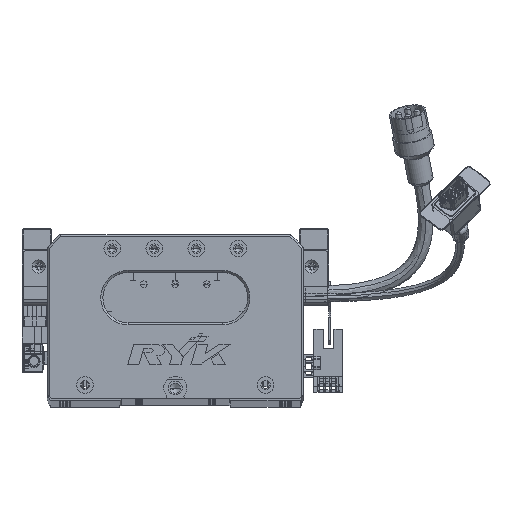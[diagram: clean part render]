
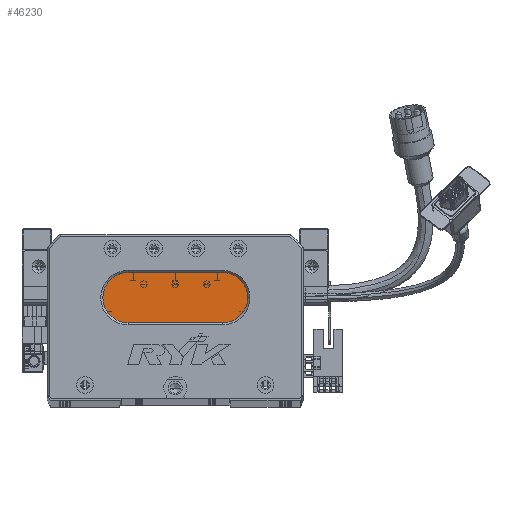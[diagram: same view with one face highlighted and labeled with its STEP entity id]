
A CAD part, top view. The second image highlights one B-rep face of the part: STEP entity #46230.
In plain terms, the highlighted planar face has unit normal (0, 0, 1) as drawn and (0, 0, -1) by its records, which use the part's own axes.
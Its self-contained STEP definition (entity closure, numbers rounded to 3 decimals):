
#3561 = VECTOR ( 'NONE', #84293, 1000. ) ;
#3773 = DIRECTION ( 'NONE',  ( 0., 0., -1. ) ) ;
#12563 = CIRCLE ( 'NONE', #96011, 12. ) ;
#12695 = AXIS2_PLACEMENT_3D ( 'NONE', #20983, #74095, #51637 ) ;
#15618 = VERTEX_POINT ( 'NONE', #81838 ) ;
#17925 = CARTESIAN_POINT ( 'NONE',  ( 38.5, 60., 13. ) ) ;
#20858 = VERTEX_POINT ( 'NONE', #82594 ) ;
#20983 = CARTESIAN_POINT ( 'NONE',  ( 38.5, 48., 13. ) ) ;
#21359 = VERTEX_POINT ( 'NONE', #81495 ) ;
#25129 = CARTESIAN_POINT ( 'NONE',  ( 83.5, 36., 13. ) ) ;
#26482 = DIRECTION ( 'NONE',  ( -1., 0., 0. ) ) ;
#26560 = ORIENTED_EDGE ( 'NONE', *, *, #59431, .T. ) ;
#28024 = CARTESIAN_POINT ( 'NONE',  ( 38.5, 48., 13. ) ) ;
#29481 = EDGE_CURVE ( 'NONE', #15618, #78859, #12563, .T. ) ;
#34553 = DIRECTION ( 'NONE',  ( 0., 0., -1. ) ) ;
#34719 = PLANE ( 'NONE',  #77582 ) ;
#36006 = EDGE_CURVE ( 'NONE', #78859, #20858, #59610, .T. ) ;
#36733 = CIRCLE ( 'NONE', #12695, 12. ) ;
#43189 = DIRECTION ( 'NONE',  ( -1., 0., 0. ) ) ;
#46230 = ADVANCED_FACE ( 'NONE', ( #82825 ), #34719, .T. ) ;
#48274 = EDGE_CURVE ( 'NONE', #21359, #84193, #76662, .T. ) ;
#49214 = CARTESIAN_POINT ( 'NONE',  ( 83.5, 48., 13. ) ) ;
#49540 = DIRECTION ( 'NONE',  ( 0., 0., -1. ) ) ;
#51637 = DIRECTION ( 'NONE',  ( -1., 0., 0. ) ) ;
#56014 = VECTOR ( 'NONE', #56407, 1000. ) ;
#56407 = DIRECTION ( 'NONE',  ( -1., 0., 0. ) ) ;
#59431 = EDGE_CURVE ( 'NONE', #20858, #21359, #36733, .T. ) ;
#59610 = LINE ( 'NONE', #25129, #56014 ) ;
#59708 = CARTESIAN_POINT ( 'NONE',  ( 83.5, 36., 13. ) ) ;
#61162 = CARTESIAN_POINT ( 'NONE',  ( 83.5, 60., 13. ) ) ;
#64809 = EDGE_LOOP ( 'NONE', ( #82456, #95534, #26560, #66259, #81841 ) ) ;
#66259 = ORIENTED_EDGE ( 'NONE', *, *, #48274, .T. ) ;
#74095 = DIRECTION ( 'NONE',  ( 0., 0., -1. ) ) ;
#76662 = CIRCLE ( 'NONE', #78877, 12. ) ;
#77582 = AXIS2_PLACEMENT_3D ( 'NONE', #49214, #49540, #95807 ) ;
#78859 = VERTEX_POINT ( 'NONE', #59708 ) ;
#78877 = AXIS2_PLACEMENT_3D ( 'NONE', #28024, #3773, #43189 ) ;
#80212 = CARTESIAN_POINT ( 'NONE',  ( 83.5, 48., 13. ) ) ;
#81495 = CARTESIAN_POINT ( 'NONE',  ( 26.5, 48., 13. ) ) ;
#81838 = CARTESIAN_POINT ( 'NONE',  ( 83.5, 60., 13. ) ) ;
#81841 = ORIENTED_EDGE ( 'NONE', *, *, #88058, .T. ) ;
#82456 = ORIENTED_EDGE ( 'NONE', *, *, #29481, .T. ) ;
#82594 = CARTESIAN_POINT ( 'NONE',  ( 38.5, 36., 13. ) ) ;
#82825 = FACE_OUTER_BOUND ( 'NONE', #64809, .T. ) ;
#84193 = VERTEX_POINT ( 'NONE', #17925 ) ;
#84293 = DIRECTION ( 'NONE',  ( 1., 0., 0. ) ) ;
#88058 = EDGE_CURVE ( 'NONE', #84193, #15618, #96118, .T. ) ;
#95534 = ORIENTED_EDGE ( 'NONE', *, *, #36006, .T. ) ;
#95807 = DIRECTION ( 'NONE',  ( -1., 0., 0. ) ) ;
#96011 = AXIS2_PLACEMENT_3D ( 'NONE', #80212, #34553, #26482 ) ;
#96118 = LINE ( 'NONE', #61162, #3561 ) ;
